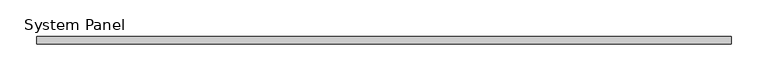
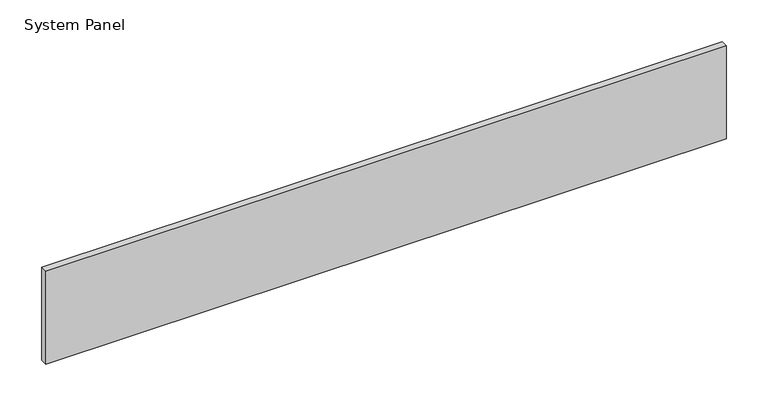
"""IFC4 building model written with IfcOpenShell, lengths in millimetres: plate geometry, System Panel : VACÍO."""

from ifc_helpers import new_model, si_unit, origin, origin_with_axes, place, context, project, spatial, polyline, outline, extrude, source, transform, mapped, element, save


def system_panel_7fb71679(model_context):
    return source(origin(), model_context, "Body", "SweptSolid", [
        extrude(outline(polyline([(470.477915, -5.0), (-470.477915, -5.0), (-470.477915, 5.0), (470.477915, 5.0), (470.477915, -5.0)])), origin_with_axes(), (0.0, 0.0, 1.0), 136.0),
    ])


if __name__ == "__main__":
    model = new_model("IFC4")
    model_context = context("Model", 3, world=origin())
    ifc_project = project(units=[si_unit("LENGTHUNIT", "METRE", prefix="MILLI")], contexts=[model_context])
    site = spatial("IfcSite", under=ifc_project)
    building = spatial("IfcBuilding", under=site)
    placement = place(None, origin())
    system_panel_shape = system_panel_7fb71679(model_context)
    element("IfcPlate", 1, ObjectType="System Panel : VACÍO", at=placement, inside=building, context=model_context, shape_type="MappedRepresentation", body=[
        mapped(system_panel_shape, transform((0.0, 0.0, 0.0), x_axis=(1.0, 0.0, 0.0), y_axis=(0.0, 1.0, 0.0), z_axis=(0.0, 0.0, 1.0))),
    ])
    save(model, "model.ifc")
